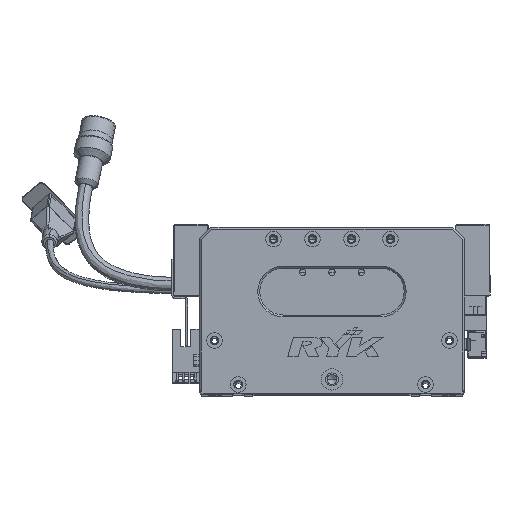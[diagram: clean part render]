
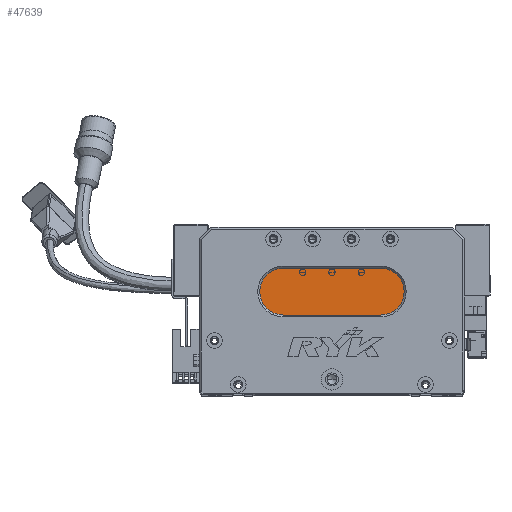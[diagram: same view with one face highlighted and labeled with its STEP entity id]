
A CAD part, top view. The second image highlights one B-rep face of the part: STEP entity #47639.
In plain terms, the highlighted planar face has unit normal (0, 0, 1) as drawn and (0, 0, -1) by its records, which use the part's own axes.
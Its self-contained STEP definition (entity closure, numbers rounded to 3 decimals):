
#298 = DIRECTION ( 'NONE',  ( 0., 0., -1. ) ) ;
#508 = DIRECTION ( 'NONE',  ( -1., 0., 0. ) ) ;
#1076 = DIRECTION ( 'NONE',  ( -1., 0., 0. ) ) ;
#2134 = ORIENTED_EDGE ( 'NONE', *, *, #74808, .T. ) ;
#7802 = EDGE_CURVE ( 'NONE', #13717, #62963, #50611, .T. ) ;
#11901 = EDGE_CURVE ( 'NONE', #42538, #38467, #41967, .T. ) ;
#13717 = VERTEX_POINT ( 'NONE', #31293 ) ;
#13816 = AXIS2_PLACEMENT_3D ( 'NONE', #29380, #18377, #1076 ) ;
#18206 = VECTOR ( 'NONE', #39614, 1000. ) ;
#18377 = DIRECTION ( 'NONE',  ( 0., 0., -1. ) ) ;
#20416 = CARTESIAN_POINT ( 'NONE',  ( 43., 40., 13. ) ) ;
#22332 = CARTESIAN_POINT ( 'NONE',  ( 31., 52., 13. ) ) ;
#25051 = AXIS2_PLACEMENT_3D ( 'NONE', #46908, #35468, #508 ) ;
#25725 = CARTESIAN_POINT ( 'NONE',  ( 93., 40., 13. ) ) ;
#26123 = ORIENTED_EDGE ( 'NONE', *, *, #33841, .T. ) ;
#26888 = CIRCLE ( 'NONE', #13816, 12. ) ;
#28279 = DIRECTION ( 'NONE',  ( -1., 0., 0. ) ) ;
#29380 = CARTESIAN_POINT ( 'NONE',  ( 93., 52., 13. ) ) ;
#29643 = EDGE_LOOP ( 'NONE', ( #26123, #2134, #62872, #51561, #52345 ) ) ;
#31293 = CARTESIAN_POINT ( 'NONE',  ( 43., 64., 13. ) ) ;
#33763 = CARTESIAN_POINT ( 'NONE',  ( 93., 40., 13. ) ) ;
#33841 = EDGE_CURVE ( 'NONE', #62963, #59201, #26888, .T. ) ;
#35468 = DIRECTION ( 'NONE',  ( 0., 0., -1. ) ) ;
#38438 = CARTESIAN_POINT ( 'NONE',  ( 93., 64., 13. ) ) ;
#38467 = VERTEX_POINT ( 'NONE', #22332 ) ;
#39614 = DIRECTION ( 'NONE',  ( -1., 0., 0. ) ) ;
#41967 = CIRCLE ( 'NONE', #25051, 12. ) ;
#42538 = VERTEX_POINT ( 'NONE', #20416 ) ;
#43107 = CARTESIAN_POINT ( 'NONE',  ( 93., 64., 13. ) ) ;
#46714 = CARTESIAN_POINT ( 'NONE',  ( 43., 52., 13. ) ) ;
#46908 = CARTESIAN_POINT ( 'NONE',  ( 43., 52., 13. ) ) ;
#47639 = ADVANCED_FACE ( 'NONE', ( #67043 ), #57608, .T. ) ;
#48459 = DIRECTION ( 'NONE',  ( 1., 0., 0. ) ) ;
#49269 = LINE ( 'NONE', #33763, #18206 ) ;
#50611 = LINE ( 'NONE', #43107, #70660 ) ;
#51561 = ORIENTED_EDGE ( 'NONE', *, *, #53721, .T. ) ;
#51998 = DIRECTION ( 'NONE',  ( 0., 0., -1. ) ) ;
#52070 = DIRECTION ( 'NONE',  ( -1., 0., 0. ) ) ;
#52345 = ORIENTED_EDGE ( 'NONE', *, *, #7802, .T. ) ;
#52645 = AXIS2_PLACEMENT_3D ( 'NONE', #46714, #298, #52070 ) ;
#53721 = EDGE_CURVE ( 'NONE', #38467, #13717, #61747, .T. ) ;
#57608 = PLANE ( 'NONE',  #63608 ) ;
#59201 = VERTEX_POINT ( 'NONE', #25725 ) ;
#61747 = CIRCLE ( 'NONE', #52645, 12. ) ;
#62872 = ORIENTED_EDGE ( 'NONE', *, *, #11901, .T. ) ;
#62963 = VERTEX_POINT ( 'NONE', #38438 ) ;
#63210 = CARTESIAN_POINT ( 'NONE',  ( 93., 52., 13. ) ) ;
#63608 = AXIS2_PLACEMENT_3D ( 'NONE', #63210, #51998, #28279 ) ;
#67043 = FACE_OUTER_BOUND ( 'NONE', #29643, .T. ) ;
#70660 = VECTOR ( 'NONE', #48459, 1000. ) ;
#74808 = EDGE_CURVE ( 'NONE', #59201, #42538, #49269, .T. ) ;
